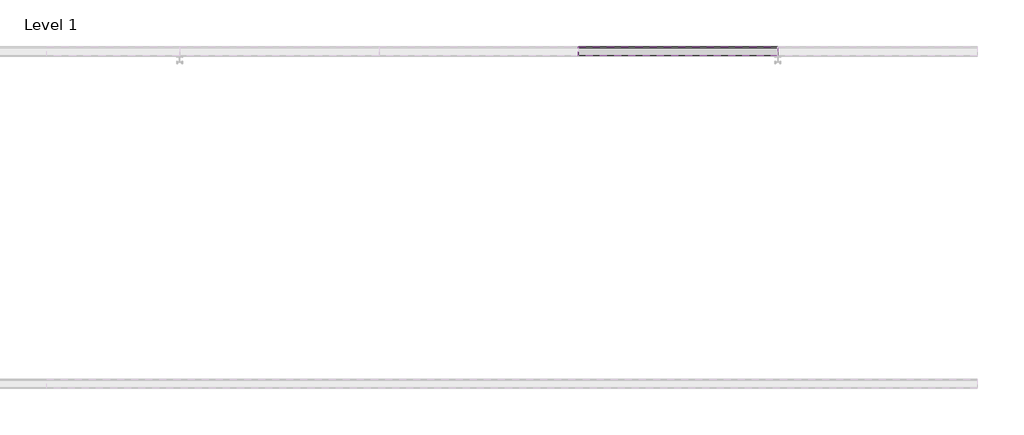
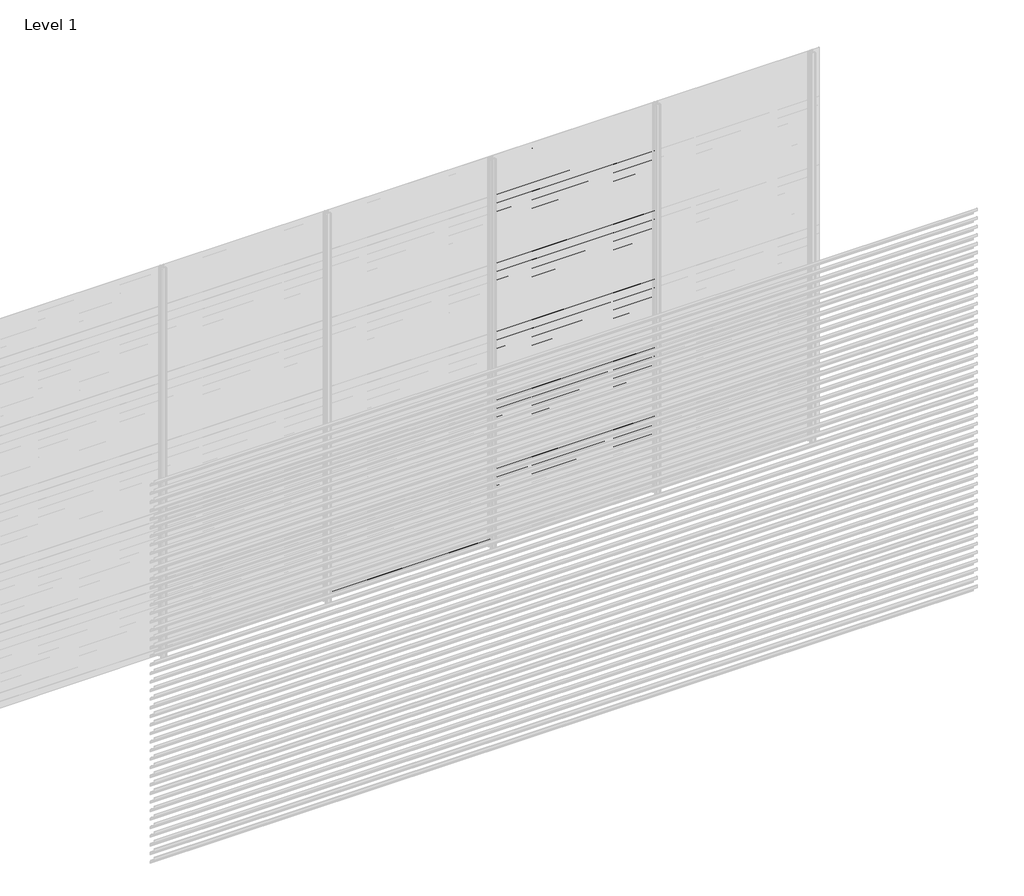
# One storey, part 135 of 540: 43 proxies.
"""IFC4 building model written with IfcOpenShell, lengths in millimetres."""

from ifc_helpers import new_model, si_unit, point, frame, frame_2d, origin, place, context, project, spatial, polyline, circle_curve, trimmed, segment, composite_curve, outline, extrude, element, save

model = new_model("IFC4")

# Units and contexts
model_context = context("Model", 3, world=origin())
ifc_project = project(units=[si_unit("LENGTHUNIT", "METRE", prefix="MILLI")], contexts=[model_context])

# Site, building, storey
site = spatial("IfcSite", under=ifc_project)
building = spatial("IfcBuilding", under=site)
storey = spatial("IfcBuildingStorey", under=building, Name="Level 1", Elevation=0.0)

# Proxies
placement = place(None, origin())
element("IfcBuildingElementProxy", 1, Name="Wall Sweeps", at=placement, inside=storey, context=model_context, shape_type="SweptSolid", body=[
    extrude(outline(composite_curve([segment(trimmed(circle_curve(frame_2d((21513.609548, 193.7676769)), 26.4944656), [point((21530.5717655, 214.1205608))], [point((21540.0540136, 195.3946208))], False, "CARTESIAN"), True, "CONTINUOUS"), segment(polyline([(21540.0540136, 195.3946208), (21540.0540136, 187.5), (21538.8040136, 188.2216933), (21538.8040136, 193.7676769)]), True, "CONTINUOUS"), segment(trimmed(circle_curve(frame_2d((21513.609548, 193.7676769)), 25.1944656), [point((21538.8040136, 193.7676769))], [point((21529.7815085, 213.086807))], True, "CARTESIAN"), True, "CONTINUOUS"), segment(polyline([(21529.7815085, 213.086807), (21485.0540136, 244.3158044), (21485.0540136, 264.0), (21486.3040136, 264.0), (21486.3040136, 245.0285629), (21530.5717655, 214.1205608)]), True, "CONTINUOUS")], self_intersect=False)), frame((91866.6208097, 0.0, 0.0), z_axis=(1.0, 0.0, 0.0), x_axis=(0.0, 1.0, 0.0)), (0.0, 0.0, 1.0), 1199.9999999),
])
element("IfcBuildingElementProxy", 2, Name="Wall Sweeps", at=placement, inside=storey, context=model_context, shape_type="SweptSolid", body=[
    extrude(outline(composite_curve([segment(trimmed(circle_curve(frame_2d((21513.609548, 127.7676769)), 26.4944656), [point((21530.5717655, 148.1205608))], [point((21540.0540136, 129.3946208))], False, "CARTESIAN"), True, "CONTINUOUS"), segment(polyline([(21540.0540136, 129.3946208), (21540.0540136, 121.5), (21538.8040136, 122.2216933), (21538.8040136, 127.7676769)]), True, "CONTINUOUS"), segment(trimmed(circle_curve(frame_2d((21513.609548, 127.7676769)), 25.1944656), [point((21538.8040136, 127.7676769))], [point((21529.7815085, 147.086807))], True, "CARTESIAN"), True, "CONTINUOUS"), segment(polyline([(21529.7815085, 147.086807), (21485.0540136, 178.3158044), (21485.0540136, 198.0), (21486.3040136, 198.0), (21486.3040136, 179.0285629), (21530.5717655, 148.1205608)]), True, "CONTINUOUS")], self_intersect=False)), frame((91866.6208097, 0.0, 0.0), z_axis=(1.0, 0.0, 0.0), x_axis=(0.0, 1.0, 0.0)), (0.0, 0.0, 1.0), 1199.9999999),
])
element("IfcBuildingElementProxy", 3, Name="Wall Sweeps", at=placement, inside=storey, context=model_context, shape_type="SweptSolid", body=[
    extrude(outline(composite_curve([segment(trimmed(circle_curve(frame_2d((21513.609548, 61.7676769)), 26.4944656), [point((21530.5717655, 82.1205608))], [point((21540.0540136, 63.3946208))], False, "CARTESIAN"), True, "CONTINUOUS"), segment(polyline([(21540.0540136, 63.3946208), (21540.0540136, 55.5), (21538.8040136, 56.2216933), (21538.8040136, 61.7676769)]), True, "CONTINUOUS"), segment(trimmed(circle_curve(frame_2d((21513.609548, 61.7676769)), 25.1944656), [point((21538.8040136, 61.7676769))], [point((21529.7815085, 81.086807))], True, "CARTESIAN"), True, "CONTINUOUS"), segment(polyline([(21529.7815085, 81.086807), (21485.0540136, 112.3158044), (21485.0540136, 132.0), (21486.3040136, 132.0), (21486.3040136, 113.0285629), (21530.5717655, 82.1205608)]), True, "CONTINUOUS")], self_intersect=False)), frame((91866.6208097, 0.0, 0.0), z_axis=(1.0, 0.0, 0.0), x_axis=(0.0, 1.0, 0.0)), (0.0, 0.0, 1.0), 1199.9999999),
])
element("IfcBuildingElementProxy", 4, Name="Wall Sweeps", at=placement, inside=storey, context=model_context, shape_type="SweptSolid", body=[
    extrude(outline(composite_curve([segment(trimmed(circle_curve(frame_2d((21513.609548, -4.2323231)), 26.4944656), [point((21530.5717655, 16.1205608))], [point((21540.0540136, -2.6053792))], False, "CARTESIAN"), True, "CONTINUOUS"), segment(polyline([(21540.0540136, -2.6053792), (21540.0540136, -10.5), (21538.8040136, -9.7783067), (21538.8040136, -4.2323231)]), True, "CONTINUOUS"), segment(trimmed(circle_curve(frame_2d((21513.609548, -4.2323231)), 25.1944656), [point((21538.8040136, -4.2323231))], [point((21529.7815085, 15.086807))], True, "CARTESIAN"), True, "CONTINUOUS"), segment(polyline([(21529.7815085, 15.086807), (21485.0540136, 46.3158044), (21485.0540136, 66.0), (21486.3040136, 66.0), (21486.3040136, 47.0285629), (21530.5717655, 16.1205608)]), True, "CONTINUOUS")], self_intersect=False)), frame((91866.6208097, 0.0, 0.0), z_axis=(1.0, 0.0, 0.0), x_axis=(0.0, 1.0, 0.0)), (0.0, 0.0, 1.0), 1199.9999999),
])
element("IfcBuildingElementProxy", 5, Name="Wall Sweeps", at=placement, inside=storey, context=model_context, shape_type="SweptSolid", body=[
    extrude(outline(composite_curve([segment(trimmed(circle_curve(frame_2d((21513.609548, 2899.7676769)), 26.4944656), [point((21530.5717655, 2920.1205608))], [point((21540.0540136, 2901.3946208))], False, "CARTESIAN"), True, "CONTINUOUS"), segment(polyline([(21540.0540136, 2901.3946208), (21540.0540136, 2893.5), (21538.8040136, 2894.2216933), (21538.8040136, 2899.7676769)]), True, "CONTINUOUS"), segment(trimmed(circle_curve(frame_2d((21513.609548, 2899.7676769)), 25.1944656), [point((21538.8040136, 2899.7676769))], [point((21529.7815085, 2919.086807))], True, "CARTESIAN"), True, "CONTINUOUS"), segment(polyline([(21529.7815085, 2919.086807), (21485.0540136, 2950.3158044), (21485.0540136, 2970.0), (21486.3040136, 2970.0), (21486.3040136, 2951.0285629), (21530.5717655, 2920.1205608)]), True, "CONTINUOUS")], self_intersect=False)), frame((93066.6208096, 0.0, 0.0), z_axis=(1.0, 0.0, 0.0), x_axis=(0.0, 1.0, 0.0)), (0.0, 0.0, 1.0), 1199.9999999),
])
element("IfcBuildingElementProxy", 6, Name="Wall Sweeps", at=placement, inside=storey, context=model_context, shape_type="SweptSolid", body=[
    extrude(outline(composite_curve([segment(trimmed(circle_curve(frame_2d((21513.609548, 2833.7676769)), 26.4944656), [point((21530.5717655, 2854.1205608))], [point((21540.0540136, 2835.3946208))], False, "CARTESIAN"), True, "CONTINUOUS"), segment(polyline([(21540.0540136, 2835.3946208), (21540.0540136, 2827.5), (21538.8040136, 2828.2216933), (21538.8040136, 2833.7676769)]), True, "CONTINUOUS"), segment(trimmed(circle_curve(frame_2d((21513.609548, 2833.7676769)), 25.1944656), [point((21538.8040136, 2833.7676769))], [point((21529.7815085, 2853.086807))], True, "CARTESIAN"), True, "CONTINUOUS"), segment(polyline([(21529.7815085, 2853.086807), (21485.0540136, 2884.3158044), (21485.0540136, 2904.0), (21486.3040136, 2904.0), (21486.3040136, 2885.0285629), (21530.5717655, 2854.1205608)]), True, "CONTINUOUS")], self_intersect=False)), frame((93066.6208096, 0.0, 0.0), z_axis=(1.0, 0.0, 0.0), x_axis=(0.0, 1.0, 0.0)), (0.0, 0.0, 1.0), 1199.9999999),
])
element("IfcBuildingElementProxy", 7, Name="Wall Sweeps", at=placement, inside=storey, context=model_context, shape_type="SweptSolid", body=[
    extrude(outline(composite_curve([segment(trimmed(circle_curve(frame_2d((21513.609548, 2767.7676769)), 26.4944656), [point((21530.5717655, 2788.1205608))], [point((21540.0540136, 2769.3946208))], False, "CARTESIAN"), True, "CONTINUOUS"), segment(polyline([(21540.0540136, 2769.3946208), (21540.0540136, 2761.5), (21538.8040136, 2762.2216933), (21538.8040136, 2767.7676769)]), True, "CONTINUOUS"), segment(trimmed(circle_curve(frame_2d((21513.609548, 2767.7676769)), 25.1944656), [point((21538.8040136, 2767.7676769))], [point((21529.7815085, 2787.086807))], True, "CARTESIAN"), True, "CONTINUOUS"), segment(polyline([(21529.7815085, 2787.086807), (21485.0540136, 2818.3158044), (21485.0540136, 2838.0), (21486.3040136, 2838.0), (21486.3040136, 2819.0285629), (21530.5717655, 2788.1205608)]), True, "CONTINUOUS")], self_intersect=False)), frame((93066.6208096, 0.0, 0.0), z_axis=(1.0, 0.0, 0.0), x_axis=(0.0, 1.0, 0.0)), (0.0, 0.0, 1.0), 1199.9999999),
])
element("IfcBuildingElementProxy", 8, Name="Wall Sweeps", at=placement, inside=storey, context=model_context, shape_type="SweptSolid", body=[
    extrude(outline(composite_curve([segment(trimmed(circle_curve(frame_2d((21513.609548, 2701.7676769)), 26.4944656), [point((21530.5717655, 2722.1205608))], [point((21540.0540136, 2703.3946208))], False, "CARTESIAN"), True, "CONTINUOUS"), segment(polyline([(21540.0540136, 2703.3946208), (21540.0540136, 2695.5), (21538.8040136, 2696.2216933), (21538.8040136, 2701.7676769)]), True, "CONTINUOUS"), segment(trimmed(circle_curve(frame_2d((21513.609548, 2701.7676769)), 25.1944656), [point((21538.8040136, 2701.7676769))], [point((21529.7815085, 2721.086807))], True, "CARTESIAN"), True, "CONTINUOUS"), segment(polyline([(21529.7815085, 2721.086807), (21485.0540136, 2752.3158044), (21485.0540136, 2772.0), (21486.3040136, 2772.0), (21486.3040136, 2753.0285629), (21530.5717655, 2722.1205608)]), True, "CONTINUOUS")], self_intersect=False)), frame((93066.6208096, 0.0, 0.0), z_axis=(1.0, 0.0, 0.0), x_axis=(0.0, 1.0, 0.0)), (0.0, 0.0, 1.0), 1199.9999999),
])
element("IfcBuildingElementProxy", 9, Name="Wall Sweeps", at=placement, inside=storey, context=model_context, shape_type="SweptSolid", body=[
    extrude(outline(composite_curve([segment(trimmed(circle_curve(frame_2d((21513.609548, 2635.7676769)), 26.4944656), [point((21530.5717655, 2656.1205608))], [point((21540.0540136, 2637.3946208))], False, "CARTESIAN"), True, "CONTINUOUS"), segment(polyline([(21540.0540136, 2637.3946208), (21540.0540136, 2629.5), (21538.8040136, 2630.2216933), (21538.8040136, 2635.7676769)]), True, "CONTINUOUS"), segment(trimmed(circle_curve(frame_2d((21513.609548, 2635.7676769)), 25.1944656), [point((21538.8040136, 2635.7676769))], [point((21529.7815085, 2655.086807))], True, "CARTESIAN"), True, "CONTINUOUS"), segment(polyline([(21529.7815085, 2655.086807), (21485.0540136, 2686.3158044), (21485.0540136, 2706.0), (21486.3040136, 2706.0), (21486.3040136, 2687.0285629), (21530.5717655, 2656.1205608)]), True, "CONTINUOUS")], self_intersect=False)), frame((93066.6208096, 0.0, 0.0), z_axis=(1.0, 0.0, 0.0), x_axis=(0.0, 1.0, 0.0)), (0.0, 0.0, 1.0), 1199.9999999),
])
element("IfcBuildingElementProxy", 10, Name="Wall Sweeps", at=placement, inside=storey, context=model_context, shape_type="SweptSolid", body=[
    extrude(outline(composite_curve([segment(trimmed(circle_curve(frame_2d((21513.609548, 2569.7676769)), 26.4944656), [point((21530.5717655, 2590.1205608))], [point((21540.0540136, 2571.3946208))], False, "CARTESIAN"), True, "CONTINUOUS"), segment(polyline([(21540.0540136, 2571.3946208), (21540.0540136, 2563.5), (21538.8040136, 2564.2216933), (21538.8040136, 2569.7676769)]), True, "CONTINUOUS"), segment(trimmed(circle_curve(frame_2d((21513.609548, 2569.7676769)), 25.1944656), [point((21538.8040136, 2569.7676769))], [point((21529.7815085, 2589.086807))], True, "CARTESIAN"), True, "CONTINUOUS"), segment(polyline([(21529.7815085, 2589.086807), (21485.0540136, 2620.3158044), (21485.0540136, 2640.0), (21486.3040136, 2640.0), (21486.3040136, 2621.0285629), (21530.5717655, 2590.1205608)]), True, "CONTINUOUS")], self_intersect=False)), frame((93066.6208096, 0.0, 0.0), z_axis=(1.0, 0.0, 0.0), x_axis=(0.0, 1.0, 0.0)), (0.0, 0.0, 1.0), 1199.9999999),
])
element("IfcBuildingElementProxy", 11, Name="Wall Sweeps", at=placement, inside=storey, context=model_context, shape_type="SweptSolid", body=[
    extrude(outline(composite_curve([segment(trimmed(circle_curve(frame_2d((21513.609548, 2503.7676769)), 26.4944656), [point((21530.5717655, 2524.1205608))], [point((21540.0540136, 2505.3946208))], False, "CARTESIAN"), True, "CONTINUOUS"), segment(polyline([(21540.0540136, 2505.3946208), (21540.0540136, 2497.5), (21538.8040136, 2498.2216933), (21538.8040136, 2503.7676769)]), True, "CONTINUOUS"), segment(trimmed(circle_curve(frame_2d((21513.609548, 2503.7676769)), 25.1944656), [point((21538.8040136, 2503.7676769))], [point((21529.7815085, 2523.086807))], True, "CARTESIAN"), True, "CONTINUOUS"), segment(polyline([(21529.7815085, 2523.086807), (21485.0540136, 2554.3158044), (21485.0540136, 2574.0), (21486.3040136, 2574.0), (21486.3040136, 2555.0285629), (21530.5717655, 2524.1205608)]), True, "CONTINUOUS")], self_intersect=False)), frame((93066.6208096, 0.0, 0.0), z_axis=(1.0, 0.0, 0.0), x_axis=(0.0, 1.0, 0.0)), (0.0, 0.0, 1.0), 1199.9999999),
])
element("IfcBuildingElementProxy", 12, Name="Wall Sweeps", at=placement, inside=storey, context=model_context, shape_type="SweptSolid", body=[
    extrude(outline(composite_curve([segment(trimmed(circle_curve(frame_2d((21513.609548, 2437.7676769)), 26.4944656), [point((21530.5717655, 2458.1205608))], [point((21540.0540136, 2439.3946208))], False, "CARTESIAN"), True, "CONTINUOUS"), segment(polyline([(21540.0540136, 2439.3946208), (21540.0540136, 2431.5), (21538.8040136, 2432.2216933), (21538.8040136, 2437.7676769)]), True, "CONTINUOUS"), segment(trimmed(circle_curve(frame_2d((21513.609548, 2437.7676769)), 25.1944656), [point((21538.8040136, 2437.7676769))], [point((21529.7815085, 2457.086807))], True, "CARTESIAN"), True, "CONTINUOUS"), segment(polyline([(21529.7815085, 2457.086807), (21485.0540136, 2488.3158044), (21485.0540136, 2508.0), (21486.3040136, 2508.0), (21486.3040136, 2489.0285629), (21530.5717655, 2458.1205608)]), True, "CONTINUOUS")], self_intersect=False)), frame((93066.6208096, 0.0, 0.0), z_axis=(1.0, 0.0, 0.0), x_axis=(0.0, 1.0, 0.0)), (0.0, 0.0, 1.0), 1199.9999999),
])
element("IfcBuildingElementProxy", 13, Name="Wall Sweeps", at=placement, inside=storey, context=model_context, shape_type="SweptSolid", body=[
    extrude(outline(composite_curve([segment(trimmed(circle_curve(frame_2d((21513.609548, 2371.7676769)), 26.4944656), [point((21530.5717655, 2392.1205608))], [point((21540.0540136, 2373.3946208))], False, "CARTESIAN"), True, "CONTINUOUS"), segment(polyline([(21540.0540136, 2373.3946208), (21540.0540136, 2365.5), (21538.8040136, 2366.2216933), (21538.8040136, 2371.7676769)]), True, "CONTINUOUS"), segment(trimmed(circle_curve(frame_2d((21513.609548, 2371.7676769)), 25.1944656), [point((21538.8040136, 2371.7676769))], [point((21529.7815085, 2391.086807))], True, "CARTESIAN"), True, "CONTINUOUS"), segment(polyline([(21529.7815085, 2391.086807), (21485.0540136, 2422.3158044), (21485.0540136, 2442.0), (21486.3040136, 2442.0), (21486.3040136, 2423.0285629), (21530.5717655, 2392.1205608)]), True, "CONTINUOUS")], self_intersect=False)), frame((93066.6208096, 0.0, 0.0), z_axis=(1.0, 0.0, 0.0), x_axis=(0.0, 1.0, 0.0)), (0.0, 0.0, 1.0), 1199.9999999),
])
element("IfcBuildingElementProxy", 14, Name="Wall Sweeps", at=placement, inside=storey, context=model_context, shape_type="SweptSolid", body=[
    extrude(outline(composite_curve([segment(trimmed(circle_curve(frame_2d((21513.609548, 2305.7676769)), 26.4944656), [point((21530.5717655, 2326.1205608))], [point((21540.0540136, 2307.3946208))], False, "CARTESIAN"), True, "CONTINUOUS"), segment(polyline([(21540.0540136, 2307.3946208), (21540.0540136, 2299.5), (21538.8040136, 2300.2216933), (21538.8040136, 2305.7676769)]), True, "CONTINUOUS"), segment(trimmed(circle_curve(frame_2d((21513.609548, 2305.7676769)), 25.1944656), [point((21538.8040136, 2305.7676769))], [point((21529.7815085, 2325.086807))], True, "CARTESIAN"), True, "CONTINUOUS"), segment(polyline([(21529.7815085, 2325.086807), (21485.0540136, 2356.3158044), (21485.0540136, 2376.0), (21486.3040136, 2376.0), (21486.3040136, 2357.0285629), (21530.5717655, 2326.1205608)]), True, "CONTINUOUS")], self_intersect=False)), frame((93066.6208096, 0.0, 0.0), z_axis=(1.0, 0.0, 0.0), x_axis=(0.0, 1.0, 0.0)), (0.0, 0.0, 1.0), 1199.9999999),
])
element("IfcBuildingElementProxy", 15, Name="Wall Sweeps", at=placement, inside=storey, context=model_context, shape_type="SweptSolid", body=[
    extrude(outline(composite_curve([segment(trimmed(circle_curve(frame_2d((21513.609548, 2239.7676769)), 26.4944656), [point((21530.5717655, 2260.1205608))], [point((21540.0540136, 2241.3946208))], False, "CARTESIAN"), True, "CONTINUOUS"), segment(polyline([(21540.0540136, 2241.3946208), (21540.0540136, 2233.5), (21538.8040136, 2234.2216933), (21538.8040136, 2239.7676769)]), True, "CONTINUOUS"), segment(trimmed(circle_curve(frame_2d((21513.609548, 2239.7676769)), 25.1944656), [point((21538.8040136, 2239.7676769))], [point((21529.7815085, 2259.086807))], True, "CARTESIAN"), True, "CONTINUOUS"), segment(polyline([(21529.7815085, 2259.086807), (21485.0540136, 2290.3158044), (21485.0540136, 2310.0), (21486.3040136, 2310.0), (21486.3040136, 2291.0285629), (21530.5717655, 2260.1205608)]), True, "CONTINUOUS")], self_intersect=False)), frame((93066.6208096, 0.0, 0.0), z_axis=(1.0, 0.0, 0.0), x_axis=(0.0, 1.0, 0.0)), (0.0, 0.0, 1.0), 1199.9999999),
])
element("IfcBuildingElementProxy", 16, Name="Wall Sweeps", at=placement, inside=storey, context=model_context, shape_type="SweptSolid", body=[
    extrude(outline(composite_curve([segment(trimmed(circle_curve(frame_2d((21513.609548, 2173.7676769)), 26.4944656), [point((21530.5717655, 2194.1205608))], [point((21540.0540136, 2175.3946208))], False, "CARTESIAN"), True, "CONTINUOUS"), segment(polyline([(21540.0540136, 2175.3946208), (21540.0540136, 2167.5), (21538.8040136, 2168.2216933), (21538.8040136, 2173.7676769)]), True, "CONTINUOUS"), segment(trimmed(circle_curve(frame_2d((21513.609548, 2173.7676769)), 25.1944656), [point((21538.8040136, 2173.7676769))], [point((21529.7815085, 2193.086807))], True, "CARTESIAN"), True, "CONTINUOUS"), segment(polyline([(21529.7815085, 2193.086807), (21485.0540136, 2224.3158044), (21485.0540136, 2244.0), (21486.3040136, 2244.0), (21486.3040136, 2225.0285629), (21530.5717655, 2194.1205608)]), True, "CONTINUOUS")], self_intersect=False)), frame((93066.6208096, 0.0, 0.0), z_axis=(1.0, 0.0, 0.0), x_axis=(0.0, 1.0, 0.0)), (0.0, 0.0, 1.0), 1199.9999999),
])
element("IfcBuildingElementProxy", 17, Name="Wall Sweeps", at=placement, inside=storey, context=model_context, shape_type="SweptSolid", body=[
    extrude(outline(composite_curve([segment(trimmed(circle_curve(frame_2d((21513.609548, 2107.7676769)), 26.4944656), [point((21530.5717655, 2128.1205608))], [point((21540.0540136, 2109.3946208))], False, "CARTESIAN"), True, "CONTINUOUS"), segment(polyline([(21540.0540136, 2109.3946208), (21540.0540136, 2101.5), (21538.8040136, 2102.2216933), (21538.8040136, 2107.7676769)]), True, "CONTINUOUS"), segment(trimmed(circle_curve(frame_2d((21513.609548, 2107.7676769)), 25.1944656), [point((21538.8040136, 2107.7676769))], [point((21529.7815085, 2127.086807))], True, "CARTESIAN"), True, "CONTINUOUS"), segment(polyline([(21529.7815085, 2127.086807), (21485.0540136, 2158.3158044), (21485.0540136, 2178.0), (21486.3040136, 2178.0), (21486.3040136, 2159.0285629), (21530.5717655, 2128.1205608)]), True, "CONTINUOUS")], self_intersect=False)), frame((93066.6208096, 0.0, 0.0), z_axis=(1.0, 0.0, 0.0), x_axis=(0.0, 1.0, 0.0)), (0.0, 0.0, 1.0), 1199.9999999),
])
element("IfcBuildingElementProxy", 18, Name="Wall Sweeps", at=placement, inside=storey, context=model_context, shape_type="SweptSolid", body=[
    extrude(outline(composite_curve([segment(trimmed(circle_curve(frame_2d((21513.609548, 2041.7676769)), 26.4944656), [point((21530.5717655, 2062.1205608))], [point((21540.0540136, 2043.3946208))], False, "CARTESIAN"), True, "CONTINUOUS"), segment(polyline([(21540.0540136, 2043.3946208), (21540.0540136, 2035.5), (21538.8040136, 2036.2216933), (21538.8040136, 2041.7676769)]), True, "CONTINUOUS"), segment(trimmed(circle_curve(frame_2d((21513.609548, 2041.7676769)), 25.1944656), [point((21538.8040136, 2041.7676769))], [point((21529.7815085, 2061.086807))], True, "CARTESIAN"), True, "CONTINUOUS"), segment(polyline([(21529.7815085, 2061.086807), (21485.0540136, 2092.3158044), (21485.0540136, 2112.0), (21486.3040136, 2112.0), (21486.3040136, 2093.0285629), (21530.5717655, 2062.1205608)]), True, "CONTINUOUS")], self_intersect=False)), frame((93066.6208096, 0.0, 0.0), z_axis=(1.0, 0.0, 0.0), x_axis=(0.0, 1.0, 0.0)), (0.0, 0.0, 1.0), 1199.9999999),
])
element("IfcBuildingElementProxy", 19, Name="Wall Sweeps", at=placement, inside=storey, context=model_context, shape_type="SweptSolid", body=[
    extrude(outline(composite_curve([segment(trimmed(circle_curve(frame_2d((21513.609548, 1975.7676769)), 26.4944656), [point((21530.5717655, 1996.1205608))], [point((21540.0540136, 1977.3946208))], False, "CARTESIAN"), True, "CONTINUOUS"), segment(polyline([(21540.0540136, 1977.3946208), (21540.0540136, 1969.5), (21538.8040136, 1970.2216933), (21538.8040136, 1975.7676769)]), True, "CONTINUOUS"), segment(trimmed(circle_curve(frame_2d((21513.609548, 1975.7676769)), 25.1944656), [point((21538.8040136, 1975.7676769))], [point((21529.7815085, 1995.086807))], True, "CARTESIAN"), True, "CONTINUOUS"), segment(polyline([(21529.7815085, 1995.086807), (21485.0540136, 2026.3158044), (21485.0540136, 2046.0), (21486.3040136, 2046.0), (21486.3040136, 2027.0285629), (21530.5717655, 1996.1205608)]), True, "CONTINUOUS")], self_intersect=False)), frame((93066.6208096, 0.0, 0.0), z_axis=(1.0, 0.0, 0.0), x_axis=(0.0, 1.0, 0.0)), (0.0, 0.0, 1.0), 1199.9999999),
])
element("IfcBuildingElementProxy", 20, Name="Wall Sweeps", at=placement, inside=storey, context=model_context, shape_type="SweptSolid", body=[
    extrude(outline(composite_curve([segment(trimmed(circle_curve(frame_2d((21513.609548, 1909.7676769)), 26.4944656), [point((21530.5717655, 1930.1205608))], [point((21540.0540136, 1911.3946208))], False, "CARTESIAN"), True, "CONTINUOUS"), segment(polyline([(21540.0540136, 1911.3946208), (21540.0540136, 1903.5), (21538.8040136, 1904.2216933), (21538.8040136, 1909.7676769)]), True, "CONTINUOUS"), segment(trimmed(circle_curve(frame_2d((21513.609548, 1909.7676769)), 25.1944656), [point((21538.8040136, 1909.7676769))], [point((21529.7815085, 1929.086807))], True, "CARTESIAN"), True, "CONTINUOUS"), segment(polyline([(21529.7815085, 1929.086807), (21485.0540136, 1960.3158044), (21485.0540136, 1980.0), (21486.3040136, 1980.0), (21486.3040136, 1961.0285629), (21530.5717655, 1930.1205608)]), True, "CONTINUOUS")], self_intersect=False)), frame((93066.6208096, 0.0, 0.0), z_axis=(1.0, 0.0, 0.0), x_axis=(0.0, 1.0, 0.0)), (0.0, 0.0, 1.0), 1199.9999999),
])
element("IfcBuildingElementProxy", 21, Name="Wall Sweeps", at=placement, inside=storey, context=model_context, shape_type="SweptSolid", body=[
    extrude(outline(composite_curve([segment(trimmed(circle_curve(frame_2d((21513.609548, 1843.7676769)), 26.4944656), [point((21530.5717655, 1864.1205608))], [point((21540.0540136, 1845.3946208))], False, "CARTESIAN"), True, "CONTINUOUS"), segment(polyline([(21540.0540136, 1845.3946208), (21540.0540136, 1837.5), (21538.8040136, 1838.2216933), (21538.8040136, 1843.7676769)]), True, "CONTINUOUS"), segment(trimmed(circle_curve(frame_2d((21513.609548, 1843.7676769)), 25.1944656), [point((21538.8040136, 1843.7676769))], [point((21529.7815085, 1863.086807))], True, "CARTESIAN"), True, "CONTINUOUS"), segment(polyline([(21529.7815085, 1863.086807), (21485.0540136, 1894.3158044), (21485.0540136, 1914.0), (21486.3040136, 1914.0), (21486.3040136, 1895.0285629), (21530.5717655, 1864.1205608)]), True, "CONTINUOUS")], self_intersect=False)), frame((93066.6208096, 0.0, 0.0), z_axis=(1.0, 0.0, 0.0), x_axis=(0.0, 1.0, 0.0)), (0.0, 0.0, 1.0), 1199.9999999),
])
element("IfcBuildingElementProxy", 22, Name="Wall Sweeps", at=placement, inside=storey, context=model_context, shape_type="SweptSolid", body=[
    extrude(outline(composite_curve([segment(trimmed(circle_curve(frame_2d((21513.609548, 1777.7676769)), 26.4944656), [point((21530.5717655, 1798.1205608))], [point((21540.0540136, 1779.3946208))], False, "CARTESIAN"), True, "CONTINUOUS"), segment(polyline([(21540.0540136, 1779.3946208), (21540.0540136, 1771.5), (21538.8040136, 1772.2216933), (21538.8040136, 1777.7676769)]), True, "CONTINUOUS"), segment(trimmed(circle_curve(frame_2d((21513.609548, 1777.7676769)), 25.1944656), [point((21538.8040136, 1777.7676769))], [point((21529.7815085, 1797.086807))], True, "CARTESIAN"), True, "CONTINUOUS"), segment(polyline([(21529.7815085, 1797.086807), (21485.0540136, 1828.3158044), (21485.0540136, 1848.0), (21486.3040136, 1848.0), (21486.3040136, 1829.0285629), (21530.5717655, 1798.1205608)]), True, "CONTINUOUS")], self_intersect=False)), frame((93066.6208096, 0.0, 0.0), z_axis=(1.0, 0.0, 0.0), x_axis=(0.0, 1.0, 0.0)), (0.0, 0.0, 1.0), 1199.9999999),
])
element("IfcBuildingElementProxy", 23, Name="Wall Sweeps", at=placement, inside=storey, context=model_context, shape_type="SweptSolid", body=[
    extrude(outline(composite_curve([segment(trimmed(circle_curve(frame_2d((21513.609548, 1711.7676769)), 26.4944656), [point((21530.5717655, 1732.1205608))], [point((21540.0540136, 1713.3946208))], False, "CARTESIAN"), True, "CONTINUOUS"), segment(polyline([(21540.0540136, 1713.3946208), (21540.0540136, 1705.5), (21538.8040136, 1706.2216933), (21538.8040136, 1711.7676769)]), True, "CONTINUOUS"), segment(trimmed(circle_curve(frame_2d((21513.609548, 1711.7676769)), 25.1944656), [point((21538.8040136, 1711.7676769))], [point((21529.7815085, 1731.086807))], True, "CARTESIAN"), True, "CONTINUOUS"), segment(polyline([(21529.7815085, 1731.086807), (21485.0540136, 1762.3158044), (21485.0540136, 1782.0), (21486.3040136, 1782.0), (21486.3040136, 1763.0285629), (21530.5717655, 1732.1205608)]), True, "CONTINUOUS")], self_intersect=False)), frame((93066.6208096, 0.0, 0.0), z_axis=(1.0, 0.0, 0.0), x_axis=(0.0, 1.0, 0.0)), (0.0, 0.0, 1.0), 1199.9999999),
])
element("IfcBuildingElementProxy", 24, Name="Wall Sweeps", at=placement, inside=storey, context=model_context, shape_type="SweptSolid", body=[
    extrude(outline(composite_curve([segment(trimmed(circle_curve(frame_2d((21513.609548, 1645.7676769)), 26.4944656), [point((21530.5717655, 1666.1205608))], [point((21540.0540136, 1647.3946208))], False, "CARTESIAN"), True, "CONTINUOUS"), segment(polyline([(21540.0540136, 1647.3946208), (21540.0540136, 1639.5), (21538.8040136, 1640.2216933), (21538.8040136, 1645.7676769)]), True, "CONTINUOUS"), segment(trimmed(circle_curve(frame_2d((21513.609548, 1645.7676769)), 25.1944656), [point((21538.8040136, 1645.7676769))], [point((21529.7815085, 1665.086807))], True, "CARTESIAN"), True, "CONTINUOUS"), segment(polyline([(21529.7815085, 1665.086807), (21485.0540136, 1696.3158044), (21485.0540136, 1716.0), (21486.3040136, 1716.0), (21486.3040136, 1697.0285629), (21530.5717655, 1666.1205608)]), True, "CONTINUOUS")], self_intersect=False)), frame((93066.6208096, 0.0, 0.0), z_axis=(1.0, 0.0, 0.0), x_axis=(0.0, 1.0, 0.0)), (0.0, 0.0, 1.0), 1199.9999999),
])
element("IfcBuildingElementProxy", 25, Name="Wall Sweeps", at=placement, inside=storey, context=model_context, shape_type="SweptSolid", body=[
    extrude(outline(composite_curve([segment(trimmed(circle_curve(frame_2d((21513.609548, 1579.7676769)), 26.4944656), [point((21530.5717655, 1600.1205608))], [point((21540.0540136, 1581.3946208))], False, "CARTESIAN"), True, "CONTINUOUS"), segment(polyline([(21540.0540136, 1581.3946208), (21540.0540136, 1573.5), (21538.8040136, 1574.2216933), (21538.8040136, 1579.7676769)]), True, "CONTINUOUS"), segment(trimmed(circle_curve(frame_2d((21513.609548, 1579.7676769)), 25.1944656), [point((21538.8040136, 1579.7676769))], [point((21529.7815085, 1599.086807))], True, "CARTESIAN"), True, "CONTINUOUS"), segment(polyline([(21529.7815085, 1599.086807), (21485.0540136, 1630.3158044), (21485.0540136, 1650.0), (21486.3040136, 1650.0), (21486.3040136, 1631.0285629), (21530.5717655, 1600.1205608)]), True, "CONTINUOUS")], self_intersect=False)), frame((93066.6208096, 0.0, 0.0), z_axis=(1.0, 0.0, 0.0), x_axis=(0.0, 1.0, 0.0)), (0.0, 0.0, 1.0), 1199.9999999),
])
element("IfcBuildingElementProxy", 26, Name="Wall Sweeps", at=placement, inside=storey, context=model_context, shape_type="SweptSolid", body=[
    extrude(outline(composite_curve([segment(trimmed(circle_curve(frame_2d((21513.609548, 1513.7676769)), 26.4944656), [point((21530.5717655, 1534.1205608))], [point((21540.0540136, 1515.3946208))], False, "CARTESIAN"), True, "CONTINUOUS"), segment(polyline([(21540.0540136, 1515.3946208), (21540.0540136, 1507.5), (21538.8040136, 1508.2216933), (21538.8040136, 1513.7676769)]), True, "CONTINUOUS"), segment(trimmed(circle_curve(frame_2d((21513.609548, 1513.7676769)), 25.1944656), [point((21538.8040136, 1513.7676769))], [point((21529.7815085, 1533.086807))], True, "CARTESIAN"), True, "CONTINUOUS"), segment(polyline([(21529.7815085, 1533.086807), (21485.0540136, 1564.3158044), (21485.0540136, 1584.0), (21486.3040136, 1584.0), (21486.3040136, 1565.0285629), (21530.5717655, 1534.1205608)]), True, "CONTINUOUS")], self_intersect=False)), frame((93066.6208096, 0.0, 0.0), z_axis=(1.0, 0.0, 0.0), x_axis=(0.0, 1.0, 0.0)), (0.0, 0.0, 1.0), 1199.9999999),
])
element("IfcBuildingElementProxy", 27, Name="Wall Sweeps", at=placement, inside=storey, context=model_context, shape_type="SweptSolid", body=[
    extrude(outline(composite_curve([segment(trimmed(circle_curve(frame_2d((21513.609548, 1447.7676769)), 26.4944656), [point((21530.5717655, 1468.1205608))], [point((21540.0540136, 1449.3946208))], False, "CARTESIAN"), True, "CONTINUOUS"), segment(polyline([(21540.0540136, 1449.3946208), (21540.0540136, 1441.5), (21538.8040136, 1442.2216933), (21538.8040136, 1447.7676769)]), True, "CONTINUOUS"), segment(trimmed(circle_curve(frame_2d((21513.609548, 1447.7676769)), 25.1944656), [point((21538.8040136, 1447.7676769))], [point((21529.7815085, 1467.086807))], True, "CARTESIAN"), True, "CONTINUOUS"), segment(polyline([(21529.7815085, 1467.086807), (21485.0540136, 1498.3158044), (21485.0540136, 1518.0), (21486.3040136, 1518.0), (21486.3040136, 1499.0285629), (21530.5717655, 1468.1205608)]), True, "CONTINUOUS")], self_intersect=False)), frame((93066.6208096, 0.0, 0.0), z_axis=(1.0, 0.0, 0.0), x_axis=(0.0, 1.0, 0.0)), (0.0, 0.0, 1.0), 1199.9999999),
])
element("IfcBuildingElementProxy", 28, Name="Wall Sweeps", at=placement, inside=storey, context=model_context, shape_type="SweptSolid", body=[
    extrude(outline(composite_curve([segment(trimmed(circle_curve(frame_2d((21513.609548, 1381.7676769)), 26.4944656), [point((21530.5717655, 1402.1205608))], [point((21540.0540136, 1383.3946208))], False, "CARTESIAN"), True, "CONTINUOUS"), segment(polyline([(21540.0540136, 1383.3946208), (21540.0540136, 1375.5), (21538.8040136, 1376.2216933), (21538.8040136, 1381.7676769)]), True, "CONTINUOUS"), segment(trimmed(circle_curve(frame_2d((21513.609548, 1381.7676769)), 25.1944656), [point((21538.8040136, 1381.7676769))], [point((21529.7815085, 1401.086807))], True, "CARTESIAN"), True, "CONTINUOUS"), segment(polyline([(21529.7815085, 1401.086807), (21485.0540136, 1432.3158044), (21485.0540136, 1452.0), (21486.3040136, 1452.0), (21486.3040136, 1433.0285629), (21530.5717655, 1402.1205608)]), True, "CONTINUOUS")], self_intersect=False)), frame((93066.6208096, 0.0, 0.0), z_axis=(1.0, 0.0, 0.0), x_axis=(0.0, 1.0, 0.0)), (0.0, 0.0, 1.0), 1199.9999999),
])
element("IfcBuildingElementProxy", 29, Name="Wall Sweeps", at=placement, inside=storey, context=model_context, shape_type="SweptSolid", body=[
    extrude(outline(composite_curve([segment(trimmed(circle_curve(frame_2d((21513.609548, 1315.7676769)), 26.4944656), [point((21530.5717655, 1336.1205608))], [point((21540.0540136, 1317.3946208))], False, "CARTESIAN"), True, "CONTINUOUS"), segment(polyline([(21540.0540136, 1317.3946208), (21540.0540136, 1309.5), (21538.8040136, 1310.2216933), (21538.8040136, 1315.7676769)]), True, "CONTINUOUS"), segment(trimmed(circle_curve(frame_2d((21513.609548, 1315.7676769)), 25.1944656), [point((21538.8040136, 1315.7676769))], [point((21529.7815085, 1335.086807))], True, "CARTESIAN"), True, "CONTINUOUS"), segment(polyline([(21529.7815085, 1335.086807), (21485.0540136, 1366.3158044), (21485.0540136, 1386.0), (21486.3040136, 1386.0), (21486.3040136, 1367.0285629), (21530.5717655, 1336.1205608)]), True, "CONTINUOUS")], self_intersect=False)), frame((93066.6208096, 0.0, 0.0), z_axis=(1.0, 0.0, 0.0), x_axis=(0.0, 1.0, 0.0)), (0.0, 0.0, 1.0), 1199.9999999),
])
element("IfcBuildingElementProxy", 30, Name="Wall Sweeps", at=placement, inside=storey, context=model_context, shape_type="SweptSolid", body=[
    extrude(outline(composite_curve([segment(trimmed(circle_curve(frame_2d((21513.609548, 1249.7676769)), 26.4944656), [point((21530.5717655, 1270.1205608))], [point((21540.0540136, 1251.3946208))], False, "CARTESIAN"), True, "CONTINUOUS"), segment(polyline([(21540.0540136, 1251.3946208), (21540.0540136, 1243.5), (21538.8040136, 1244.2216933), (21538.8040136, 1249.7676769)]), True, "CONTINUOUS"), segment(trimmed(circle_curve(frame_2d((21513.609548, 1249.7676769)), 25.1944656), [point((21538.8040136, 1249.7676769))], [point((21529.7815085, 1269.086807))], True, "CARTESIAN"), True, "CONTINUOUS"), segment(polyline([(21529.7815085, 1269.086807), (21485.0540136, 1300.3158044), (21485.0540136, 1320.0), (21486.3040136, 1320.0), (21486.3040136, 1301.0285629), (21530.5717655, 1270.1205608)]), True, "CONTINUOUS")], self_intersect=False)), frame((93066.6208096, 0.0, 0.0), z_axis=(1.0, 0.0, 0.0), x_axis=(0.0, 1.0, 0.0)), (0.0, 0.0, 1.0), 1199.9999999),
])
element("IfcBuildingElementProxy", 31, Name="Wall Sweeps", at=placement, inside=storey, context=model_context, shape_type="SweptSolid", body=[
    extrude(outline(composite_curve([segment(trimmed(circle_curve(frame_2d((21513.609548, 1183.7676769)), 26.4944656), [point((21530.5717655, 1204.1205608))], [point((21540.0540136, 1185.3946208))], False, "CARTESIAN"), True, "CONTINUOUS"), segment(polyline([(21540.0540136, 1185.3946208), (21540.0540136, 1177.5), (21538.8040136, 1178.2216933), (21538.8040136, 1183.7676769)]), True, "CONTINUOUS"), segment(trimmed(circle_curve(frame_2d((21513.609548, 1183.7676769)), 25.1944656), [point((21538.8040136, 1183.7676769))], [point((21529.7815085, 1203.086807))], True, "CARTESIAN"), True, "CONTINUOUS"), segment(polyline([(21529.7815085, 1203.086807), (21485.0540136, 1234.3158044), (21485.0540136, 1254.0), (21486.3040136, 1254.0), (21486.3040136, 1235.0285629), (21530.5717655, 1204.1205608)]), True, "CONTINUOUS")], self_intersect=False)), frame((93066.6208096, 0.0, 0.0), z_axis=(1.0, 0.0, 0.0), x_axis=(0.0, 1.0, 0.0)), (0.0, 0.0, 1.0), 1199.9999999),
])
element("IfcBuildingElementProxy", 32, Name="Wall Sweeps", at=placement, inside=storey, context=model_context, shape_type="SweptSolid", body=[
    extrude(outline(composite_curve([segment(trimmed(circle_curve(frame_2d((21513.609548, 1117.7676769)), 26.4944656), [point((21530.5717655, 1138.1205608))], [point((21540.0540136, 1119.3946208))], False, "CARTESIAN"), True, "CONTINUOUS"), segment(polyline([(21540.0540136, 1119.3946208), (21540.0540136, 1111.5), (21538.8040136, 1112.2216933), (21538.8040136, 1117.7676769)]), True, "CONTINUOUS"), segment(trimmed(circle_curve(frame_2d((21513.609548, 1117.7676769)), 25.1944656), [point((21538.8040136, 1117.7676769))], [point((21529.7815085, 1137.086807))], True, "CARTESIAN"), True, "CONTINUOUS"), segment(polyline([(21529.7815085, 1137.086807), (21485.0540136, 1168.3158044), (21485.0540136, 1188.0), (21486.3040136, 1188.0), (21486.3040136, 1169.0285629), (21530.5717655, 1138.1205608)]), True, "CONTINUOUS")], self_intersect=False)), frame((93066.6208096, 0.0, 0.0), z_axis=(1.0, 0.0, 0.0), x_axis=(0.0, 1.0, 0.0)), (0.0, 0.0, 1.0), 1199.9999999),
])
element("IfcBuildingElementProxy", 33, Name="Wall Sweeps", at=placement, inside=storey, context=model_context, shape_type="SweptSolid", body=[
    extrude(outline(composite_curve([segment(trimmed(circle_curve(frame_2d((21513.609548, 1051.7676769)), 26.4944656), [point((21530.5717655, 1072.1205608))], [point((21540.0540136, 1053.3946208))], False, "CARTESIAN"), True, "CONTINUOUS"), segment(polyline([(21540.0540136, 1053.3946208), (21540.0540136, 1045.5), (21538.8040136, 1046.2216933), (21538.8040136, 1051.7676769)]), True, "CONTINUOUS"), segment(trimmed(circle_curve(frame_2d((21513.609548, 1051.7676769)), 25.1944656), [point((21538.8040136, 1051.7676769))], [point((21529.7815085, 1071.086807))], True, "CARTESIAN"), True, "CONTINUOUS"), segment(polyline([(21529.7815085, 1071.086807), (21485.0540136, 1102.3158044), (21485.0540136, 1122.0), (21486.3040136, 1122.0), (21486.3040136, 1103.0285629), (21530.5717655, 1072.1205608)]), True, "CONTINUOUS")], self_intersect=False)), frame((93066.6208096, 0.0, 0.0), z_axis=(1.0, 0.0, 0.0), x_axis=(0.0, 1.0, 0.0)), (0.0, 0.0, 1.0), 1199.9999999),
])
element("IfcBuildingElementProxy", 34, Name="Wall Sweeps", at=placement, inside=storey, context=model_context, shape_type="SweptSolid", body=[
    extrude(outline(composite_curve([segment(trimmed(circle_curve(frame_2d((21513.609548, 985.7676769)), 26.4944656), [point((21530.5717655, 1006.1205608))], [point((21540.0540136, 987.3946208))], False, "CARTESIAN"), True, "CONTINUOUS"), segment(polyline([(21540.0540136, 987.3946208), (21540.0540136, 979.5), (21538.8040136, 980.2216933), (21538.8040136, 985.7676769)]), True, "CONTINUOUS"), segment(trimmed(circle_curve(frame_2d((21513.609548, 985.7676769)), 25.1944656), [point((21538.8040136, 985.7676769))], [point((21529.7815085, 1005.086807))], True, "CARTESIAN"), True, "CONTINUOUS"), segment(polyline([(21529.7815085, 1005.086807), (21485.0540136, 1036.3158044), (21485.0540136, 1056.0), (21486.3040136, 1056.0), (21486.3040136, 1037.0285629), (21530.5717655, 1006.1205608)]), True, "CONTINUOUS")], self_intersect=False)), frame((93066.6208096, 0.0, 0.0), z_axis=(1.0, 0.0, 0.0), x_axis=(0.0, 1.0, 0.0)), (0.0, 0.0, 1.0), 1199.9999999),
])
element("IfcBuildingElementProxy", 35, Name="Wall Sweeps", at=placement, inside=storey, context=model_context, shape_type="SweptSolid", body=[
    extrude(outline(composite_curve([segment(trimmed(circle_curve(frame_2d((21513.609548, 919.7676769)), 26.4944656), [point((21530.5717655, 940.1205608))], [point((21540.0540136, 921.3946208))], False, "CARTESIAN"), True, "CONTINUOUS"), segment(polyline([(21540.0540136, 921.3946208), (21540.0540136, 913.5), (21538.8040136, 914.2216933), (21538.8040136, 919.7676769)]), True, "CONTINUOUS"), segment(trimmed(circle_curve(frame_2d((21513.609548, 919.7676769)), 25.1944656), [point((21538.8040136, 919.7676769))], [point((21529.7815085, 939.086807))], True, "CARTESIAN"), True, "CONTINUOUS"), segment(polyline([(21529.7815085, 939.086807), (21485.0540136, 970.3158044), (21485.0540136, 990.0), (21486.3040136, 990.0), (21486.3040136, 971.0285629), (21530.5717655, 940.1205608)]), True, "CONTINUOUS")], self_intersect=False)), frame((93066.6208096, 0.0, 0.0), z_axis=(1.0, 0.0, 0.0), x_axis=(0.0, 1.0, 0.0)), (0.0, 0.0, 1.0), 1199.9999999),
])
element("IfcBuildingElementProxy", 36, Name="Wall Sweeps", at=placement, inside=storey, context=model_context, shape_type="SweptSolid", body=[
    extrude(outline(composite_curve([segment(trimmed(circle_curve(frame_2d((21513.609548, 853.7676769)), 26.4944656), [point((21530.5717655, 874.1205608))], [point((21540.0540136, 855.3946208))], False, "CARTESIAN"), True, "CONTINUOUS"), segment(polyline([(21540.0540136, 855.3946208), (21540.0540136, 847.5), (21538.8040136, 848.2216933), (21538.8040136, 853.7676769)]), True, "CONTINUOUS"), segment(trimmed(circle_curve(frame_2d((21513.609548, 853.7676769)), 25.1944656), [point((21538.8040136, 853.7676769))], [point((21529.7815085, 873.086807))], True, "CARTESIAN"), True, "CONTINUOUS"), segment(polyline([(21529.7815085, 873.086807), (21485.0540136, 904.3158044), (21485.0540136, 924.0), (21486.3040136, 924.0), (21486.3040136, 905.0285629), (21530.5717655, 874.1205608)]), True, "CONTINUOUS")], self_intersect=False)), frame((93066.6208096, 0.0, 0.0), z_axis=(1.0, 0.0, 0.0), x_axis=(0.0, 1.0, 0.0)), (0.0, 0.0, 1.0), 1199.9999999),
])
element("IfcBuildingElementProxy", 37, Name="Wall Sweeps", at=placement, inside=storey, context=model_context, shape_type="SweptSolid", body=[
    extrude(outline(composite_curve([segment(trimmed(circle_curve(frame_2d((21513.609548, 787.7676769)), 26.4944656), [point((21530.5717655, 808.1205608))], [point((21540.0540136, 789.3946208))], False, "CARTESIAN"), True, "CONTINUOUS"), segment(polyline([(21540.0540136, 789.3946208), (21540.0540136, 781.5), (21538.8040136, 782.2216933), (21538.8040136, 787.7676769)]), True, "CONTINUOUS"), segment(trimmed(circle_curve(frame_2d((21513.609548, 787.7676769)), 25.1944656), [point((21538.8040136, 787.7676769))], [point((21529.7815085, 807.086807))], True, "CARTESIAN"), True, "CONTINUOUS"), segment(polyline([(21529.7815085, 807.086807), (21485.0540136, 838.3158044), (21485.0540136, 858.0), (21486.3040136, 858.0), (21486.3040136, 839.0285629), (21530.5717655, 808.1205608)]), True, "CONTINUOUS")], self_intersect=False)), frame((93066.6208096, 0.0, 0.0), z_axis=(1.0, 0.0, 0.0), x_axis=(0.0, 1.0, 0.0)), (0.0, 0.0, 1.0), 1199.9999999),
])
element("IfcBuildingElementProxy", 38, Name="Wall Sweeps", at=placement, inside=storey, context=model_context, shape_type="SweptSolid", body=[
    extrude(outline(composite_curve([segment(trimmed(circle_curve(frame_2d((21513.609548, 721.7676769)), 26.4944656), [point((21530.5717655, 742.1205608))], [point((21540.0540136, 723.3946208))], False, "CARTESIAN"), True, "CONTINUOUS"), segment(polyline([(21540.0540136, 723.3946208), (21540.0540136, 715.5), (21538.8040136, 716.2216933), (21538.8040136, 721.7676769)]), True, "CONTINUOUS"), segment(trimmed(circle_curve(frame_2d((21513.609548, 721.7676769)), 25.1944656), [point((21538.8040136, 721.7676769))], [point((21529.7815085, 741.086807))], True, "CARTESIAN"), True, "CONTINUOUS"), segment(polyline([(21529.7815085, 741.086807), (21485.0540136, 772.3158044), (21485.0540136, 792.0), (21486.3040136, 792.0), (21486.3040136, 773.0285629), (21530.5717655, 742.1205608)]), True, "CONTINUOUS")], self_intersect=False)), frame((93066.6208096, 0.0, 0.0), z_axis=(1.0, 0.0, 0.0), x_axis=(0.0, 1.0, 0.0)), (0.0, 0.0, 1.0), 1199.9999999),
])
element("IfcBuildingElementProxy", 39, Name="Wall Sweeps", at=placement, inside=storey, context=model_context, shape_type="SweptSolid", body=[
    extrude(outline(composite_curve([segment(trimmed(circle_curve(frame_2d((21513.609548, 655.7676769)), 26.4944656), [point((21530.5717655, 676.1205608))], [point((21540.0540136, 657.3946208))], False, "CARTESIAN"), True, "CONTINUOUS"), segment(polyline([(21540.0540136, 657.3946208), (21540.0540136, 649.5), (21538.8040136, 650.2216933), (21538.8040136, 655.7676769)]), True, "CONTINUOUS"), segment(trimmed(circle_curve(frame_2d((21513.609548, 655.7676769)), 25.1944656), [point((21538.8040136, 655.7676769))], [point((21529.7815085, 675.086807))], True, "CARTESIAN"), True, "CONTINUOUS"), segment(polyline([(21529.7815085, 675.086807), (21485.0540136, 706.3158044), (21485.0540136, 726.0), (21486.3040136, 726.0), (21486.3040136, 707.0285629), (21530.5717655, 676.1205608)]), True, "CONTINUOUS")], self_intersect=False)), frame((93066.6208096, 0.0, 0.0), z_axis=(1.0, 0.0, 0.0), x_axis=(0.0, 1.0, 0.0)), (0.0, 0.0, 1.0), 1199.9999999),
])
element("IfcBuildingElementProxy", 40, Name="Wall Sweeps", at=placement, inside=storey, context=model_context, shape_type="SweptSolid", body=[
    extrude(outline(composite_curve([segment(trimmed(circle_curve(frame_2d((21513.609548, 589.7676769)), 26.4944656), [point((21530.5717655, 610.1205608))], [point((21540.0540136, 591.3946208))], False, "CARTESIAN"), True, "CONTINUOUS"), segment(polyline([(21540.0540136, 591.3946208), (21540.0540136, 583.5), (21538.8040136, 584.2216933), (21538.8040136, 589.7676769)]), True, "CONTINUOUS"), segment(trimmed(circle_curve(frame_2d((21513.609548, 589.7676769)), 25.1944656), [point((21538.8040136, 589.7676769))], [point((21529.7815085, 609.086807))], True, "CARTESIAN"), True, "CONTINUOUS"), segment(polyline([(21529.7815085, 609.086807), (21485.0540136, 640.3158044), (21485.0540136, 660.0), (21486.3040136, 660.0), (21486.3040136, 641.0285629), (21530.5717655, 610.1205608)]), True, "CONTINUOUS")], self_intersect=False)), frame((93066.6208096, 0.0, 0.0), z_axis=(1.0, 0.0, 0.0), x_axis=(0.0, 1.0, 0.0)), (0.0, 0.0, 1.0), 1199.9999999),
])
element("IfcBuildingElementProxy", 41, Name="Wall Sweeps", at=placement, inside=storey, context=model_context, shape_type="SweptSolid", body=[
    extrude(outline(composite_curve([segment(trimmed(circle_curve(frame_2d((21513.609548, 523.7676769)), 26.4944656), [point((21530.5717655, 544.1205608))], [point((21540.0540136, 525.3946208))], False, "CARTESIAN"), True, "CONTINUOUS"), segment(polyline([(21540.0540136, 525.3946208), (21540.0540136, 517.5), (21538.8040136, 518.2216933), (21538.8040136, 523.7676769)]), True, "CONTINUOUS"), segment(trimmed(circle_curve(frame_2d((21513.609548, 523.7676769)), 25.1944656), [point((21538.8040136, 523.7676769))], [point((21529.7815085, 543.086807))], True, "CARTESIAN"), True, "CONTINUOUS"), segment(polyline([(21529.7815085, 543.086807), (21485.0540136, 574.3158044), (21485.0540136, 594.0), (21486.3040136, 594.0), (21486.3040136, 575.0285629), (21530.5717655, 544.1205608)]), True, "CONTINUOUS")], self_intersect=False)), frame((93066.6208096, 0.0, 0.0), z_axis=(1.0, 0.0, 0.0), x_axis=(0.0, 1.0, 0.0)), (0.0, 0.0, 1.0), 1199.9999999),
])
element("IfcBuildingElementProxy", 42, Name="Wall Sweeps", at=placement, inside=storey, context=model_context, shape_type="SweptSolid", body=[
    extrude(outline(composite_curve([segment(trimmed(circle_curve(frame_2d((21513.609548, 457.7676769)), 26.4944656), [point((21530.5717655, 478.1205608))], [point((21540.0540136, 459.3946208))], False, "CARTESIAN"), True, "CONTINUOUS"), segment(polyline([(21540.0540136, 459.3946208), (21540.0540136, 451.5), (21538.8040136, 452.2216933), (21538.8040136, 457.7676769)]), True, "CONTINUOUS"), segment(trimmed(circle_curve(frame_2d((21513.609548, 457.7676769)), 25.1944656), [point((21538.8040136, 457.7676769))], [point((21529.7815085, 477.086807))], True, "CARTESIAN"), True, "CONTINUOUS"), segment(polyline([(21529.7815085, 477.086807), (21485.0540136, 508.3158044), (21485.0540136, 528.0), (21486.3040136, 528.0), (21486.3040136, 509.0285629), (21530.5717655, 478.1205608)]), True, "CONTINUOUS")], self_intersect=False)), frame((93066.6208096, 0.0, 0.0), z_axis=(1.0, 0.0, 0.0), x_axis=(0.0, 1.0, 0.0)), (0.0, 0.0, 1.0), 1199.9999999),
])
element("IfcBuildingElementProxy", 43, Name="Wall Sweeps", at=placement, inside=storey, context=model_context, shape_type="SweptSolid", body=[
    extrude(outline(composite_curve([segment(trimmed(circle_curve(frame_2d((21513.609548, 391.7676769)), 26.4944656), [point((21530.5717655, 412.1205608))], [point((21540.0540136, 393.3946208))], False, "CARTESIAN"), True, "CONTINUOUS"), segment(polyline([(21540.0540136, 393.3946208), (21540.0540136, 385.5), (21538.8040136, 386.2216933), (21538.8040136, 391.7676769)]), True, "CONTINUOUS"), segment(trimmed(circle_curve(frame_2d((21513.609548, 391.7676769)), 25.1944656), [point((21538.8040136, 391.7676769))], [point((21529.7815085, 411.086807))], True, "CARTESIAN"), True, "CONTINUOUS"), segment(polyline([(21529.7815085, 411.086807), (21485.0540136, 442.3158044), (21485.0540136, 462.0), (21486.3040136, 462.0), (21486.3040136, 443.0285629), (21530.5717655, 412.1205608)]), True, "CONTINUOUS")], self_intersect=False)), frame((93066.6208096, 0.0, 0.0), z_axis=(1.0, 0.0, 0.0), x_axis=(0.0, 1.0, 0.0)), (0.0, 0.0, 1.0), 1199.9999999),
])

save(model, "model.ifc")
